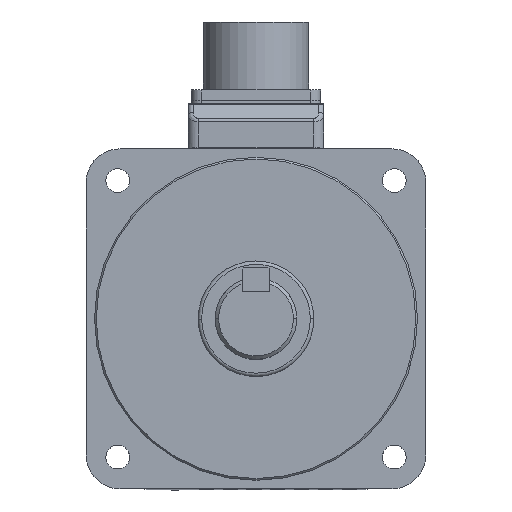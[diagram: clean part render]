
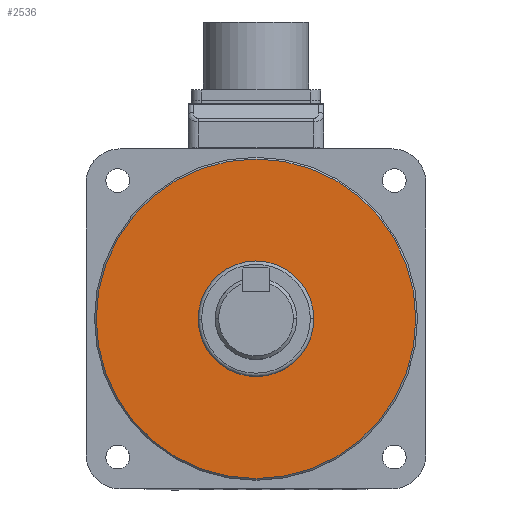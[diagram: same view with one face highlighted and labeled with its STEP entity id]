
A CAD part, top view. The second image highlights one B-rep face of the part: STEP entity #2536.
In plain terms, the highlighted planar face has unit normal (0, 0, 1).
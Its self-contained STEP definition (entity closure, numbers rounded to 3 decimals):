
#1935 = DIRECTION ( 'NONE',  ( 0., 0., 1. ) ) ;
#2536 = ADVANCED_FACE ( 'NONE', ( #8163 ), #43538, .T. ) ;
#8163 = FACE_OUTER_BOUND ( 'NONE', #32282, .T. ) ;
#14364 = DIRECTION ( 'NONE',  ( 0., 0., 1. ) ) ;
#14754 = CARTESIAN_POINT ( 'NONE',  ( -47., 0., 5. ) ) ;
#16048 = CARTESIAN_POINT ( 'NONE',  ( 0., 0., 5. ) ) ;
#20262 = DIRECTION ( 'NONE',  ( 1., 0., 0. ) ) ;
#21117 = AXIS2_PLACEMENT_3D ( 'NONE', #16048, #45424, #20262 ) ;
#25052 = VERTEX_POINT ( 'NONE', #33683 ) ;
#27032 = CARTESIAN_POINT ( 'NONE',  ( 0., 0., 5. ) ) ;
#30453 = VERTEX_POINT ( 'NONE', #14754 ) ;
#30895 = CIRCLE ( 'NONE', #35721, 47. ) ;
#31217 = DIRECTION ( 'NONE',  ( 1., 0., 0. ) ) ;
#32282 = EDGE_LOOP ( 'NONE', ( #41117, #45133 ) ) ;
#32460 = EDGE_CURVE ( 'NONE', #25052, #30453, #30895, .T. ) ;
#33683 = CARTESIAN_POINT ( 'NONE',  ( 47., 0., 5. ) ) ;
#35721 = AXIS2_PLACEMENT_3D ( 'NONE', #39466, #14364, #43664 ) ;
#39466 = CARTESIAN_POINT ( 'NONE',  ( 0., 0., 5. ) ) ;
#41117 = ORIENTED_EDGE ( 'NONE', *, *, #49233, .T. ) ;
#43538 = PLANE ( 'NONE',  #49131 ) ;
#43664 = DIRECTION ( 'NONE',  ( 1., 0., 0. ) ) ;
#44666 = CIRCLE ( 'NONE', #21117, 47. ) ;
#45133 = ORIENTED_EDGE ( 'NONE', *, *, #32460, .T. ) ;
#45424 = DIRECTION ( 'NONE',  ( 0., 0., 1. ) ) ;
#49131 = AXIS2_PLACEMENT_3D ( 'NONE', #27032, #1935, #31217 ) ;
#49233 = EDGE_CURVE ( 'NONE', #30453, #25052, #44666, .T. ) ;
